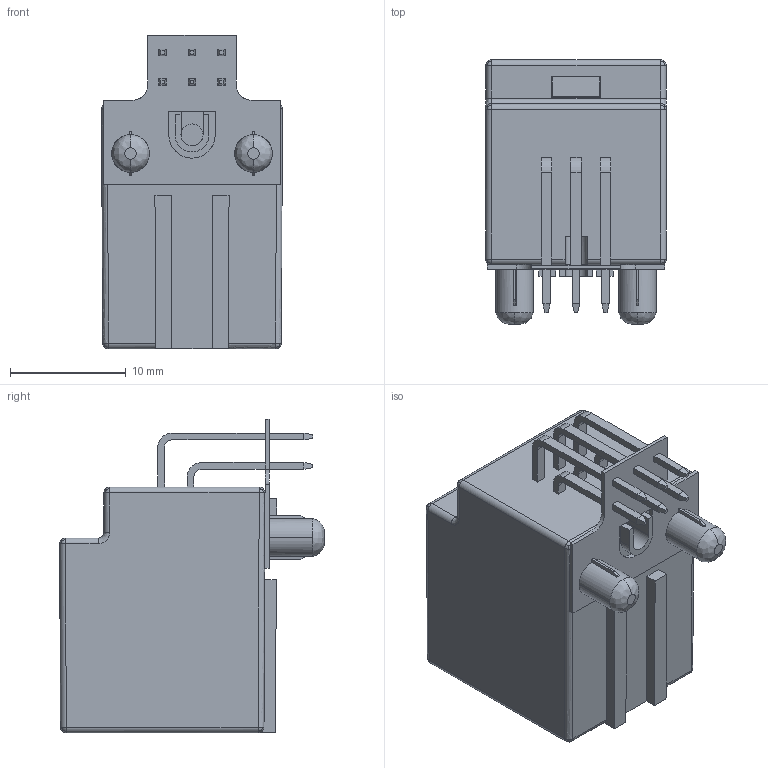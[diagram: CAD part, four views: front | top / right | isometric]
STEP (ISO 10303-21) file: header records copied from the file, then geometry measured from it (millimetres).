
FILE_DESCRIPTION((''),'2;1');
FILE_NAME('307005060','2019-06-20T',('gga'),(''),'PRO/ENGINEER BY PARAMETRIC TECHNOLOGY CORPORATION, 2016010','PRO/ENGINEER BY PARAMETRIC TECHNOLOGY CORPORATION, 2016010','');
FILE_SCHEMA(('CONFIG_CONTROL_DESIGN'));
Length unit declared in the file: millimetre
Products named in the file (1): 307005060
Bounding box: 15.6 x 22.82 x 27.06 mm (x, y, z)
Volume: 2378.5 mm3; surface area: 3826.1 mm2
Topology: 1 solids, 1 shells, 539 faces, 1509 edges, 989 vertices
Faces by surface type: plane 426, bspline 44, cylinder 37, extrusion 28, cone 4
Entity records: 20922 total; most frequent: CARTESIAN_POINT 7378, ORIENTED_EDGE 2982, DIRECTION 2404, EDGE_CURVE 1491, VECTOR 1278, LINE 1250, VERTEX_POINT 971, EDGE_LOOP 574
